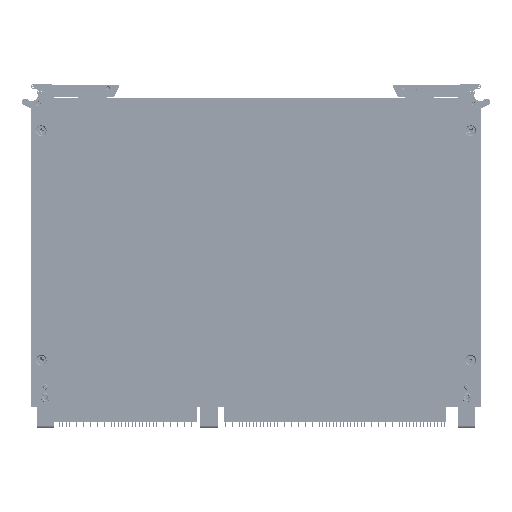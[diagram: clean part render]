
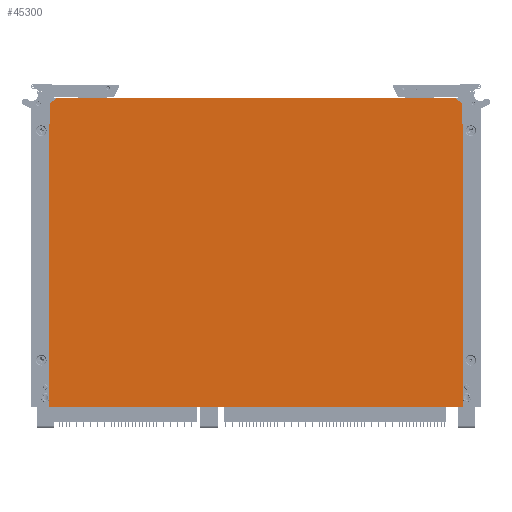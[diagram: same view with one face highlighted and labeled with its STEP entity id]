
A CAD part, left-side view. The second image highlights one B-rep face of the part: STEP entity #45300.
In plain terms, the highlighted planar face has unit normal (-1, 0, 0) as drawn and (0, 1, 0) by its records, which use the part's own axes.
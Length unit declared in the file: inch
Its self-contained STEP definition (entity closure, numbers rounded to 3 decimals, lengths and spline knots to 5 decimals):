
#2646 = CARTESIAN_POINT ( 'NONE',  ( -4.1935, 0.11, 5.79621 ) ) ;
#3334 = VERTEX_POINT ( 'NONE', #214480 ) ;
#9203 = EDGE_CURVE ( 'NONE', #24483, #62489, #132713, .T. ) ;
#10826 = DIRECTION ( 'NONE',  ( 0., 0., -1. ) ) ;
#15377 = VERTEX_POINT ( 'NONE', #74867 ) ;
#16154 = EDGE_CURVE ( 'NONE', #251230, #198258, #63845, .T. ) ;
#18744 = CARTESIAN_POINT ( 'NONE',  ( -4.16791, 0.11, 6.20913 ) ) ;
#18946 = CIRCLE ( 'NONE', #116184, 0.06 ) ;
#20898 = CARTESIAN_POINT ( 'NONE',  ( -4.221, 0.11, 0. ) ) ;
#24483 = VERTEX_POINT ( 'NONE', #134777 ) ;
#30040 = ORIENTED_EDGE ( 'NONE', *, *, #9203, .F. ) ;
#41702 = ORIENTED_EDGE ( 'NONE', *, *, #253514, .F. ) ;
#43627 = CIRCLE ( 'NONE', #152845, 0.06 ) ;
#45300 = ADVANCED_FACE ( 'NONE', ( #171919 ), #58027, .F. ) ;
#46130 = DIRECTION ( 'NONE',  ( 0., -1., 0. ) ) ;
#53875 = VERTEX_POINT ( 'NONE', #114920 ) ;
#56596 = DIRECTION ( 'NONE',  ( 0., 1., 0. ) ) ;
#58027 = PLANE ( 'NONE',  #69046 ) ;
#58775 = CARTESIAN_POINT ( 'NONE',  ( 4.16791, 0.11, 6.20913 ) ) ;
#62489 = VERTEX_POINT ( 'NONE', #260334 ) ;
#63094 = VECTOR ( 'NONE', #256557, 39.37008 ) ;
#63845 = LINE ( 'NONE', #235103, #63094 ) ;
#65135 = AXIS2_PLACEMENT_3D ( 'NONE', #201470, #74215, #222965 ) ;
#69046 = AXIS2_PLACEMENT_3D ( 'NONE', #79498, #228190, #100908 ) ;
#69770 = VERTEX_POINT ( 'NONE', #20898 ) ;
#70056 = ORIENTED_EDGE ( 'NONE', *, *, #257595, .T. ) ;
#72819 = VERTEX_POINT ( 'NONE', #81069 ) ;
#73297 = AXIS2_PLACEMENT_3D ( 'NONE', #265996, #138469, #10826 ) ;
#74215 = DIRECTION ( 'NONE',  ( 0., 1., 0. ) ) ;
#74867 = CARTESIAN_POINT ( 'NONE',  ( 4.1935, 0.11, 6.15998 ) ) ;
#77287 = EDGE_CURVE ( 'NONE', #62489, #15377, #163663, .T. ) ;
#78702 = CARTESIAN_POINT ( 'NONE',  ( 4.1335, 0.11, 6.15998 ) ) ;
#78889 = CARTESIAN_POINT ( 'NONE',  ( 4.221, 0.11, 0. ) ) ;
#79498 = CARTESIAN_POINT ( 'NONE',  ( -4.221, 0.11, 6.29921 ) ) ;
#79928 = ORIENTED_EDGE ( 'NONE', *, *, #231473, .T. ) ;
#81069 = CARTESIAN_POINT ( 'NONE',  ( -4.1935, 0.11, 5.79621 ) ) ;
#85650 = DIRECTION ( 'NONE',  ( -1., 0., 0. ) ) ;
#86107 = CARTESIAN_POINT ( 'NONE',  ( 4.02034, 0.11, 6.29921 ) ) ;
#92691 = CARTESIAN_POINT ( 'NONE',  ( -4.02034, 0.11, 6.29921 ) ) ;
#98936 = CARTESIAN_POINT ( 'NONE',  ( 4.2235, 0.11, 5.79621 ) ) ;
#100118 = DIRECTION ( 'NONE',  ( 0., 0., 1. ) ) ;
#100547 = AXIS2_PLACEMENT_3D ( 'NONE', #183964, #56596, #205389 ) ;
#100908 = DIRECTION ( 'NONE',  ( 0., 0., -1. ) ) ;
#101724 = VECTOR ( 'NONE', #215912, 39.37008 ) ;
#101928 = LINE ( 'NONE', #2646, #101724 ) ;
#105123 = DIRECTION ( 'NONE',  ( 0., 0., -1. ) ) ;
#107576 = CARTESIAN_POINT ( 'NONE',  ( -4.16791, 0.11, 6.20913 ) ) ;
#109040 = VERTEX_POINT ( 'NONE', #132006 ) ;
#110077 = CARTESIAN_POINT ( 'NONE',  ( 4.1935, 0.11, 5.79621 ) ) ;
#112338 = VERTEX_POINT ( 'NONE', #78889 ) ;
#112865 = ORIENTED_EDGE ( 'NONE', *, *, #188232, .F. ) ;
#114920 = CARTESIAN_POINT ( 'NONE',  ( -4.05476, 0.11, 6.28836 ) ) ;
#116184 = AXIS2_PLACEMENT_3D ( 'NONE', #173528, #46130, #194943 ) ;
#116302 = LINE ( 'NONE', #107576, #116821 ) ;
#116809 = CARTESIAN_POINT ( 'NONE',  ( -4.221, 0.11, 6.29921 ) ) ;
#116821 = VECTOR ( 'NONE', #234905, 39.37008 ) ;
#120279 = DIRECTION ( 'NONE',  ( 0., 0., 1. ) ) ;
#128388 = EDGE_CURVE ( 'NONE', #15377, #251230, #43627, .T. ) ;
#132006 = CARTESIAN_POINT ( 'NONE',  ( -4.221, 0.11, 5.76632 ) ) ;
#132713 = CIRCLE ( 'NONE', #242475, 0.03 ) ;
#134402 = ORIENTED_EDGE ( 'NONE', *, *, #128388, .F. ) ;
#134777 = CARTESIAN_POINT ( 'NONE',  ( 4.221, 0.11, 5.76632 ) ) ;
#138469 = DIRECTION ( 'NONE',  ( 0., 1., 0. ) ) ;
#142036 = ORIENTED_EDGE ( 'NONE', *, *, #77287, .F. ) ;
#147140 = VERTEX_POINT ( 'NONE', #18744 ) ;
#148387 = VERTEX_POINT ( 'NONE', #86107 ) ;
#152675 = ORIENTED_EDGE ( 'NONE', *, *, #216049, .F. ) ;
#152845 = AXIS2_PLACEMENT_3D ( 'NONE', #78702, #227404, #100118 ) ;
#157883 = ORIENTED_EDGE ( 'NONE', *, *, #190028, .F. ) ;
#159396 = DIRECTION ( 'NONE',  ( -1., 0., 0. ) ) ;
#163663 = LINE ( 'NONE', #110077, #163715 ) ;
#163715 = VECTOR ( 'NONE', #258905, 39.37008 ) ;
#166918 = VERTEX_POINT ( 'NONE', #92691 ) ;
#171919 = FACE_OUTER_BOUND ( 'NONE', #220891, .T. ) ;
#172417 = CIRCLE ( 'NONE', #100547, 0.03 ) ;
#173528 = CARTESIAN_POINT ( 'NONE',  ( -4.1335, 0.11, 6.15998 ) ) ;
#174964 = EDGE_CURVE ( 'NONE', #147140, #3334, #18946, .T. ) ;
#183631 = VECTOR ( 'NONE', #105123, 39.37008 ) ;
#183896 = LINE ( 'NONE', #274442, #183631 ) ;
#183964 = CARTESIAN_POINT ( 'NONE',  ( -4.2235, 0.11, 5.79621 ) ) ;
#188232 = EDGE_CURVE ( 'NONE', #109040, #69770, #183896, .T. ) ;
#189074 = ORIENTED_EDGE ( 'NONE', *, *, #174964, .F. ) ;
#190028 = EDGE_CURVE ( 'NONE', #3334, #72819, #101928, .T. ) ;
#191469 = CARTESIAN_POINT ( 'NONE',  ( -4.221, 0.11, 0. ) ) ;
#194578 = CARTESIAN_POINT ( 'NONE',  ( 4.05476, 0.11, 6.28836 ) ) ;
#194943 = DIRECTION ( 'NONE',  ( 0., 0., -1. ) ) ;
#198258 = VERTEX_POINT ( 'NONE', #194578 ) ;
#201470 = CARTESIAN_POINT ( 'NONE',  ( -4.02034, 0.11, 6.23921 ) ) ;
#205389 = DIRECTION ( 'NONE',  ( 0., 0., -1. ) ) ;
#206251 = EDGE_CURVE ( 'NONE', #53875, #147140, #116302, .T. ) ;
#209418 = EDGE_CURVE ( 'NONE', #24483, #112338, #214878, .T. ) ;
#212820 = LINE ( 'NONE', #191469, #213065 ) ;
#213065 = VECTOR ( 'NONE', #85650, 39.37008 ) ;
#213536 = VECTOR ( 'NONE', #248867, 39.37008 ) ;
#214480 = CARTESIAN_POINT ( 'NONE',  ( -4.1935, 0.11, 6.15998 ) ) ;
#214878 = LINE ( 'NONE', #227451, #213536 ) ;
#215578 = ORIENTED_EDGE ( 'NONE', *, *, #209418, .T. ) ;
#215912 = DIRECTION ( 'NONE',  ( 0., 0., -1. ) ) ;
#216049 = EDGE_CURVE ( 'NONE', #72819, #109040, #172417, .T. ) ;
#218066 = VECTOR ( 'NONE', #159396, 39.37008 ) ;
#218957 = LINE ( 'NONE', #116809, #218066 ) ;
#220891 = EDGE_LOOP ( 'NONE', ( #264611, #235524, #41702, #70056, #241095, #134402, #142036, #30040, #215578, #79928, #112865, #152675, #157883, #189074 ) ) ;
#222965 = DIRECTION ( 'NONE',  ( 0., 0., -1. ) ) ;
#227404 = DIRECTION ( 'NONE',  ( 0., -1., 0. ) ) ;
#227451 = CARTESIAN_POINT ( 'NONE',  ( 4.221, 0.11, 6.29921 ) ) ;
#228190 = DIRECTION ( 'NONE',  ( 0., -1., 0. ) ) ;
#231473 = EDGE_CURVE ( 'NONE', #112338, #69770, #212820, .T. ) ;
#234905 = DIRECTION ( 'NONE',  ( -0.819, 0., -0.574 ) ) ;
#235103 = CARTESIAN_POINT ( 'NONE',  ( 4.16791, 0.11, 6.20913 ) ) ;
#235524 = ORIENTED_EDGE ( 'NONE', *, *, #252280, .T. ) ;
#241095 = ORIENTED_EDGE ( 'NONE', *, *, #16154, .F. ) ;
#242475 = AXIS2_PLACEMENT_3D ( 'NONE', #98936, #247633, #120279 ) ;
#247633 = DIRECTION ( 'NONE',  ( 0., 1., 0. ) ) ;
#248867 = DIRECTION ( 'NONE',  ( 0., 0., -1. ) ) ;
#251230 = VERTEX_POINT ( 'NONE', #58775 ) ;
#252280 = EDGE_CURVE ( 'NONE', #53875, #166918, #270528, .T. ) ;
#253514 = EDGE_CURVE ( 'NONE', #148387, #166918, #218957, .T. ) ;
#256557 = DIRECTION ( 'NONE',  ( -0.819, 0., 0.574 ) ) ;
#257595 = EDGE_CURVE ( 'NONE', #148387, #198258, #266812, .T. ) ;
#258905 = DIRECTION ( 'NONE',  ( 0., 0., 1. ) ) ;
#260334 = CARTESIAN_POINT ( 'NONE',  ( 4.1935, 0.11, 5.79621 ) ) ;
#264611 = ORIENTED_EDGE ( 'NONE', *, *, #206251, .F. ) ;
#265996 = CARTESIAN_POINT ( 'NONE',  ( 4.02034, 0.11, 6.23921 ) ) ;
#266812 = CIRCLE ( 'NONE', #73297, 0.06 ) ;
#270528 = CIRCLE ( 'NONE', #65135, 0.06 ) ;
#274442 = CARTESIAN_POINT ( 'NONE',  ( -4.221, 0.11, 6.29921 ) ) ;
